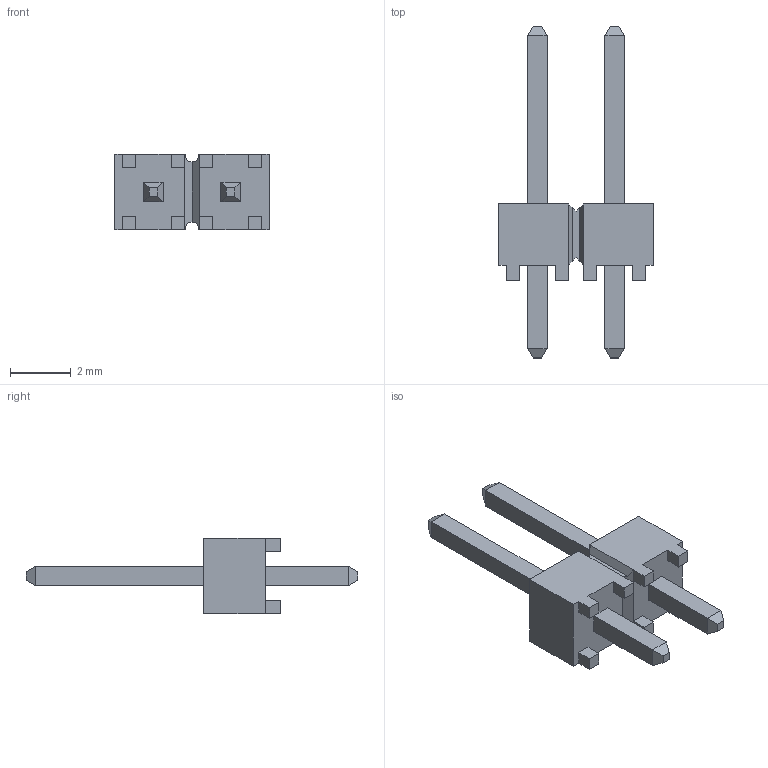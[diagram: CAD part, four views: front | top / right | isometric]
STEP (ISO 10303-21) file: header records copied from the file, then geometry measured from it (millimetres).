
FILE_DESCRIPTION( ( 'STEP AP214' ), '1' );
FILE_NAME( 'e:/temp/worker_907/temp/exporttempdir_7764_62_y2zAy/format_0/HTSW-102-07-T-S.stp', '2022-06-03T14:05:12', ( 'License CC BY-ND 4.0' ), ( 'CADENAS' ), ' ', 'PARTsolutions', ' ' );
FILE_SCHEMA( ( 'AUTOMOTIVE_DESIGN { 1 0 10303 214 1 1 1 1 }' ) );
Length unit declared in the file: inch
Products named in the file (3): HTSW-102-07-T-S; _HTSW-102-07-T-S_body; _T-1S6-07-HTSW-1--07-2-S
Assembly tree (2 placements, depth 2):
  HTSW-102-07-T-S
    _HTSW-102-07-T-S_body
    _T-1S6-07-HTSW-1--07-2-S
Bounding box: 5.08 x 10.92 x 2.49 mm (x, y, z)
Volume: 33 mm3; surface area: 133.1 mm2
Topology: 2 solids, 2 shells, 106 faces, 270 edges, 172 vertices
Faces by surface type: plane 106
Entity records: 4012 total; most frequent: CARTESIAN_POINT 551, ORIENTED_EDGE 540, DIRECTION 488, EDGE_CURVE 270, LINE 270, VECTOR 270, VERTEX_POINT 172, EDGE_LOOP 114
